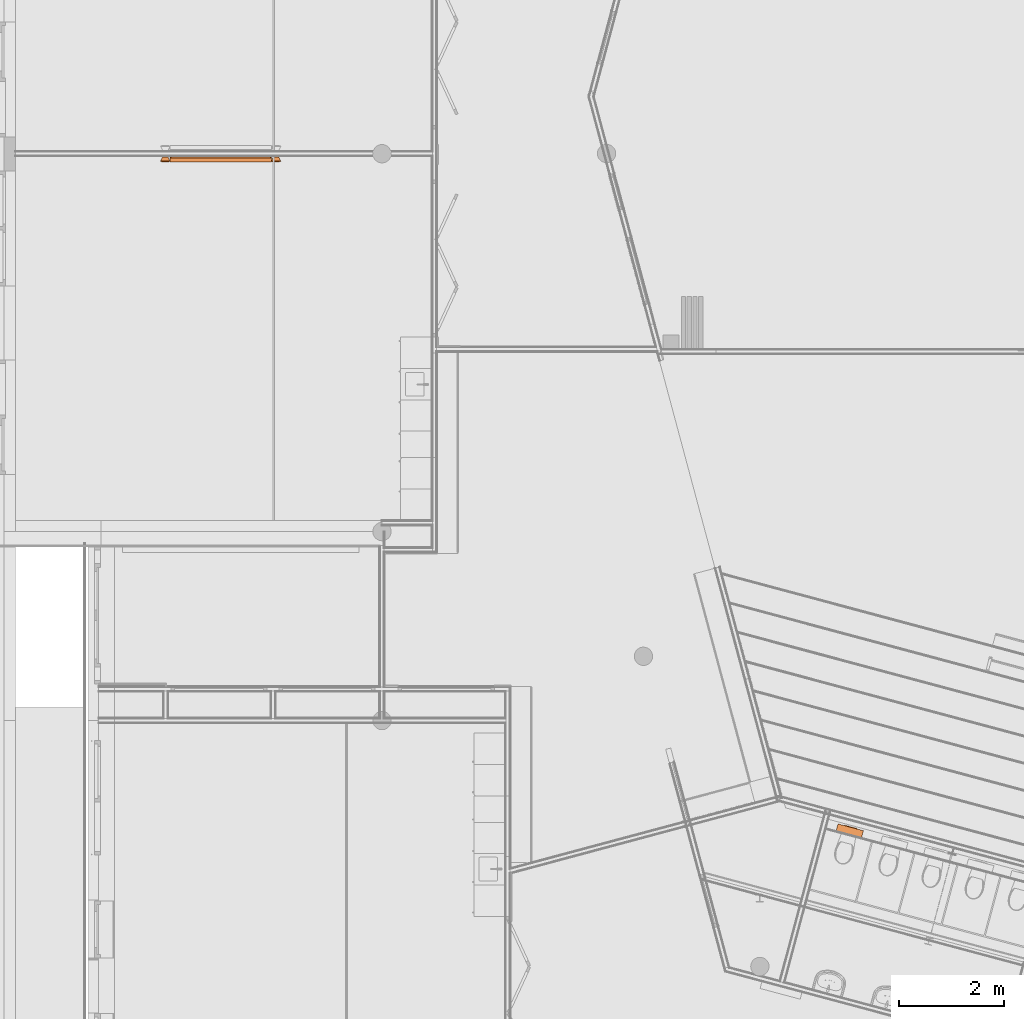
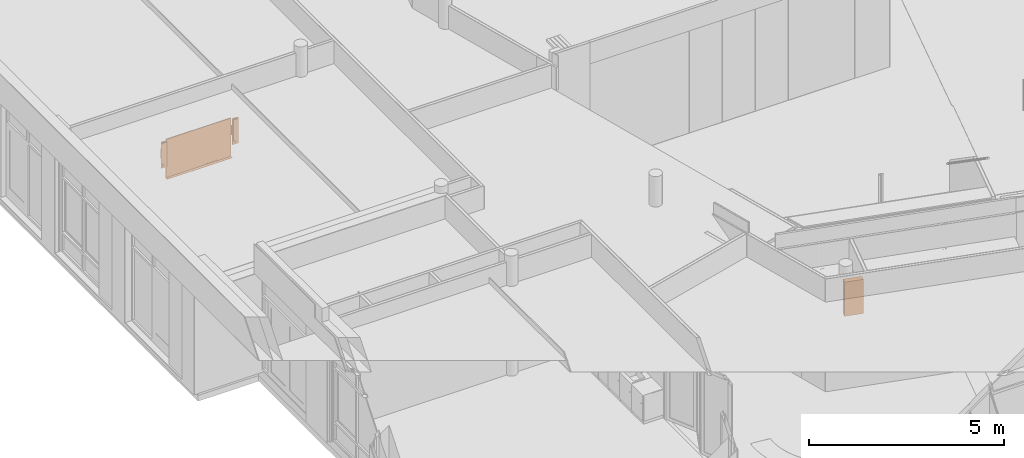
# One storey, part 94 of 167: 2 proxies.
"""IFC2X3 building model written with IfcOpenShell, lengths in millimetres."""

import ifcopenshell
import ifcopenshell.guid

model = None  # the IFC model being written
_history = None  # IfcOwnerHistory: only IFC2X3 demands one
_inside = {}  # id of a spatial element -> (the spatial element, [elements in it])
_under = {}  # id of a project, library or spatial element -> (it, [spatial elements below it])
_declared = {}  # id of a project -> (the project, [libraries it declares])
_typed = {}  # id of a type object -> (the type object, [elements of that type])
_made_of = {}  # id of a material, layer set ... -> (it, [elements and type objects made of it])


def new_model(schema):
    """Start an empty IFC model of exactly this schema.

    Asked for "IFC4X3", IfcOpenShell would pick the latest addendum, in which some entities
    have other attributes; the version numbers below select the first issue.
    IFC2X3 requires an IfcOwnerHistory on every rooted entity: one is made here for all.
    """
    global model, _history
    if schema == "IFC4X3":
        model = ifcopenshell.file(schema_version=(4, 3, 0, 0))
    else:
        model = ifcopenshell.file(schema=schema)
    _inside.clear()
    _under.clear()
    _declared.clear()
    _typed.clear()
    _made_of.clear()
    _history = None
    if model.schema == "IFC2X3":
        org = make("IfcOrganization", Name="unknown")
        user = make(
            "IfcPersonAndOrganization",
            ThePerson=make("IfcPerson", FamilyName="unknown"),
            TheOrganization=org,
        )
        app = make(
            "IfcApplication",
            ApplicationDeveloper=org,
            Version="unknown",
            ApplicationFullName="unknown",
            ApplicationIdentifier="unknown",
        )
        _history = make(
            "IfcOwnerHistory",
            OwningUser=user,
            OwningApplication=app,
            ChangeAction="ADDED",
            CreationDate=0,
        )
    return model


def make(cls, **values):
    """One entity of the class cls with the attributes given. An attribute that is None is left unset."""
    return model.create_entity(
        cls, **{name: value for name, value in values.items() if value is not None}
    )


def entity(cls, *values):
    """Any entity or typed value of the class cls, its attributes in the order of the schema. None: left unset."""
    e = model.create_entity(cls)
    for i, value in enumerate(values):
        if value is not None:
            e[i] = value
    return e


def rooted(cls, **values):
    """An entity with a GlobalId (a new one), such as an element, a storey or a relation."""
    return make(cls, GlobalId=ifcopenshell.guid.new(), OwnerHistory=_history, **values)


def si_unit(unit_type, name, prefix=None):
    """IfcSIUnit, for example si_unit("LENGTHUNIT", "METRE", prefix="MILLI")."""
    return make("IfcSIUnit", UnitType=unit_type, Prefix=prefix, Name=name)


def converted_unit(unit_type, name, factor, base, dimensions=None, offset=None):
    """IfcConversionBasedUnit, such as the inch: factor (a typed value) times the base unit."""
    return make(
        "IfcConversionBasedUnit"
        if offset is None
        else "IfcConversionBasedUnitWithOffset",
        ConversionOffset=offset,
        Dimensions=None
        if dimensions is None
        else entity("IfcDimensionalExponents", *dimensions),
        UnitType=unit_type,
        Name=name,
        ConversionFactor=make(
            "IfcMeasureWithUnit", ValueComponent=factor, UnitComponent=base
        ),
    )


def derived_unit(unit_type, elements):
    """IfcDerivedUnit: a product of units, each with its exponent."""
    return make(
        "IfcDerivedUnit",
        Elements=[
            make("IfcDerivedUnitElement", Unit=unit, Exponent=power)
            for unit, power in elements
        ],
        UnitType=unit_type,
    )


def money_unit(currency):
    """IfcMonetaryUnit."""
    return make("IfcMonetaryUnit", Currency=currency)


def assignment(units):
    """IfcUnitAssignment: the units of a project."""
    return None if units is None else make("IfcUnitAssignment", Units=units)


def point(xyz):
    """IfcCartesianPoint."""
    return None if xyz is None else make("IfcCartesianPoint", Coordinates=xyz)


def direction(xyz):
    """IfcDirection."""
    return None if xyz is None else make("IfcDirection", DirectionRatios=xyz)


def frame(location, z_axis=None, x_axis=None):
    """IfcAxis2Placement3D, a coordinate frame: its origin and axes. An axis left out is left unset."""
    return make(
        "IfcAxis2Placement3D",
        Location=point(location),
        Axis=direction(z_axis),
        RefDirection=direction(x_axis),
    )


def origin_with_axes():
    """The frame at (0, 0, 0) with the z axis (0, 0, 1) and the x axis (1, 0, 0) written out."""
    return frame((0.0, 0.0, 0.0), z_axis=(0.0, 0.0, 1.0), x_axis=(1.0, 0.0, 0.0))


def place(relative_to, where):
    """IfcLocalPlacement: puts the frame where relative to a parent placement (None: the world)."""
    return make(
        "IfcLocalPlacement", PlacementRelTo=relative_to, RelativePlacement=where
    )


def context(
    kind, dimensions, precision=None, world=None, true_north=None, identifier=None
):
    """IfcGeometricRepresentationContext, for example the 3D "Model" context."""
    return make(
        "IfcGeometricRepresentationContext",
        ContextIdentifier=identifier,
        ContextType=kind,
        CoordinateSpaceDimension=dimensions,
        Precision=precision,
        WorldCoordinateSystem=world,
        TrueNorth=true_north,
    )


def subcontext(parent, identifier, kind, view, scale=None):
    """IfcGeometricRepresentationSubContext, for example "Body" below "Model"."""
    return make(
        "IfcGeometricRepresentationSubContext",
        ContextIdentifier=identifier,
        ContextType=kind,
        ParentContext=parent,
        TargetScale=scale,
        TargetView=view,
    )


def project(units=None, contexts=None):
    """IfcProject with its units and contexts."""
    return rooted(
        "IfcProject",
        Name="project",
        RepresentationContexts=contexts,
        UnitsInContext=assignment(units),
    )


def spatial(cls, under=None, at=None, **own):
    """A site, building, storey or space (cls), placed at a placement, below another one or the project."""
    s = rooted(cls, ObjectPlacement=at, **own)
    if under is not None:
        _under.setdefault(under.id(), (under, []))[1].append(s)
    return s


def faces_of(points, faces, orient=None, outer=None):
    """IfcFace entities. A face is a list of loops; a loop is a list of indices into points, from 0.

    orient and outer hold one flag for each loop. By default every Orientation is true, the
    first loop of a face is its IfcFaceOuterBound and the others are IfcFaceBound.
    """
    made = []
    for i, loops in enumerate(faces):
        bounds = []
        for j, loop in enumerate(loops):
            is_outer = j == 0 if outer is None else outer[i][j]
            bounds.append(
                make(
                    "IfcFaceOuterBound" if is_outer else "IfcFaceBound",
                    Bound=make("IfcPolyLoop", Polygon=[points[k] for k in loop]),
                    Orientation=True if orient is None else orient[i][j],
                )
            )
        made.append(make("IfcFace", Bounds=bounds))
    return made


def open_shell(faces, orient=None, outer=None):
    """The faces of one IfcOpenShell. surface_model builds it on its shared points."""
    return ("IfcOpenShell", faces, orient, outer)


def faceted_brep(points, faces, orient=None, outer=None, voids=None):
    """IfcFacetedBrep: a solid bounded by flat faces; with voids (closed shells), ...WithVoids."""
    shared = [point(p) for p in points]
    hull = make("IfcClosedShell", CfsFaces=faces_of(shared, faces, orient, outer))
    if voids is None:
        return make("IfcFacetedBrep", Outer=hull)
    return make(
        "IfcFacetedBrepWithVoids",
        Outer=hull,
        Voids=[
            make(cls, CfsFaces=faces_of(shared, fs, o, b)) for cls, fs, o, b in voids
        ],
    )


def surface_model(cls, points, shells):
    """IfcFaceBasedSurfaceModel or IfcShellBasedSurfaceModel (cls): surfaces that need not close."""
    shared = [point(p) for p in points]
    made = [make(c, CfsFaces=faces_of(shared, fs, o, b)) for c, fs, o, b in shells]
    if cls == "IfcFaceBasedSurfaceModel":
        return make(cls, FbsmFaces=made)
    return make(cls, SbsmBoundary=made)


def shape(context_of_items, identifier, shape_type, items):
    """IfcShapeRepresentation: the items that make up one representation, for example the "Body"."""
    return make(
        "IfcShapeRepresentation",
        ContextOfItems=context_of_items,
        RepresentationIdentifier=identifier,
        RepresentationType=shape_type,
        Items=items,
    )


def source(mapping_origin, context_of_items, identifier, shape_type, items):
    """IfcRepresentationMap: a shape defined once, which mapped items show again and again."""
    return make(
        "IfcRepresentationMap",
        MappingOrigin=mapping_origin,
        MappedRepresentation=shape(context_of_items, identifier, shape_type, items),
    )


def transform(
    local_origin,
    x_axis=None,
    y_axis=None,
    z_axis=None,
    scale=None,
    scale2=None,
    scale3=None,
    uniform=True,
):
    """IfcCartesianTransformationOperator3D, or its non-uniform kind. x_axis, y_axis, z_axis: its Axis1, 2, 3."""
    if uniform:
        return make(
            "IfcCartesianTransformationOperator3D",
            Axis1=direction(x_axis),
            Axis2=direction(y_axis),
            LocalOrigin=point(local_origin),
            Scale=scale,
            Axis3=direction(z_axis),
        )
    return make(
        "IfcCartesianTransformationOperator3DnonUniform",
        Axis1=direction(x_axis),
        Axis2=direction(y_axis),
        LocalOrigin=point(local_origin),
        Scale=scale,
        Axis3=direction(z_axis),
        Scale2=scale2,
        Scale3=scale3,
    )


def mapped(mapping_source, mapping_target):
    """IfcMappedItem: shows the shape of a source again, moved by a transform."""
    return make(
        "IfcMappedItem", MappingSource=mapping_source, MappingTarget=mapping_target
    )


def made_of(thing, what):
    """Note that an element or type object is made of a material, layer set ...; save() writes the relation."""
    if what is not None:
        _made_of.setdefault(what.id(), (what, []))[1].append(thing)
    return thing


def type_object(cls, material=None, **own):
    """A type object (cls), such as IfcWallType, which elements share."""
    return made_of(rooted(cls, **own), material)


def type_shapes(of_type, sources):
    """Give a type object the sources (RepresentationMaps) that its elements show as mapped items."""
    of_type.RepresentationMaps = sources


def element(
    cls,
    number,
    at=None,
    inside=None,
    cuts=None,
    type_object=None,
    material=None,
    context=None,
    identifier="Body",
    shape_type=None,
    held_by="IfcProductDefinitionShape",
    body=None,
    shapes=None,
    **own,
):
    """One element of the class cls, such as IfcWall. Its Tag is "e" and its number.

    at: its placement. inside: the storey or other place that contains it. cuts: it is an
    opening in that element (IfcRelVoidsElement). A single representation is given by context,
    identifier, shape_type and body (its items); several are given by shapes. held_by: the class
    of the entity that holds the representations. save() writes the other relations.
    """
    e = rooted(cls, Tag="e%d" % number, ObjectPlacement=at, **own)
    if body is not None:
        shapes = [shape(context, identifier, shape_type, body)]
    if shapes is not None:
        e.Representation = make(held_by, Representations=shapes)
    if inside is not None:
        _inside.setdefault(inside.id(), (inside, []))[1].append(e)
    if cuts is not None:
        rooted(
            "IfcRelVoidsElement", RelatingBuildingElement=cuts, RelatedOpeningElement=e
        )
    if type_object is not None:
        _typed.setdefault(type_object.id(), (type_object, []))[1].append(e)
    return made_of(e, material)


def aggregate(whole, parts):
    """IfcRelAggregates: a whole, such as a stair, and the parts it consists of."""
    return rooted("IfcRelAggregates", RelatingObject=whole, RelatedObjects=parts)


def save(model, path):
    """Write the relations noted so far, then the file.

    IfcRelAggregates (storeys below a building ...), IfcRelContainedInSpatialStructure (elements
    in a storey), IfcRelDefinesByType, IfcRelAssociatesMaterial and IfcRelDeclares: one each for
    every whole, place, type object, material and project.
    """
    for whole, parts in _under.values():
        aggregate(whole, parts)
    for where, things in _inside.values():
        rooted(
            "IfcRelContainedInSpatialStructure",
            RelatedElements=things,
            RelatingStructure=where,
        )
    for kind, things in _typed.values():
        rooted("IfcRelDefinesByType", RelatedObjects=things, RelatingType=kind)
    for what, things in _made_of.values():
        rooted("IfcRelAssociatesMaterial", RelatedObjects=things, RelatingMaterial=what)
    for by, libraries in _declared.values():
        rooted("IfcRelDeclares", RelatingContext=by, RelatedDefinitions=libraries)
    model.write(path)


model = new_model("IFC2X3")

# Units and contexts
model_context = context("Model", 3, precision=0.01, world=origin_with_axes(), true_north=direction((0.0, 1.0)))
plan_context = context("Plan", 3, precision=0.01, world=origin_with_axes(), true_north=direction((0.0, 1.0)))
body_context = subcontext(model_context, "Body", "Model", "MODEL_VIEW")
ifc_project = project(units=[si_unit("LENGTHUNIT", "METRE", prefix="MILLI"), si_unit("AREAUNIT", "SQUARE_METRE"), si_unit("VOLUMEUNIT", "CUBIC_METRE"), converted_unit("PLANEANGLEUNIT", "DEGREE", entity("IfcPlaneAngleMeasure", 0.0174532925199), si_unit("PLANEANGLEUNIT", "RADIAN"), dimensions=[0, 0, 0, 0, 0, 0, 0]), si_unit("SOLIDANGLEUNIT", "STERADIAN"), money_unit("EUR"), converted_unit("TIMEUNIT", "Year", entity("IfcTimeMeasure", 31556926.0), si_unit("TIMEUNIT", "SECOND"), dimensions=[0, 0, 1, 0, 0, 0, 0]), si_unit("MASSUNIT", "GRAM", prefix="KILO"), si_unit("THERMODYNAMICTEMPERATUREUNIT", "DEGREE_CELSIUS"), si_unit("LUMINOUSINTENSITYUNIT", "LUMEN"), si_unit("ENERGYUNIT", "JOULE", prefix="MEGA"), derived_unit("THERMALCONDUCTANCEUNIT", [(si_unit("POWERUNIT", "WATT"), 1), (si_unit("LENGTHUNIT", "METRE"), -1), (si_unit("THERMODYNAMICTEMPERATUREUNIT", "KELVIN"), -1)]), derived_unit("SPECIFICHEATCAPACITYUNIT", [(si_unit("ENERGYUNIT", "JOULE"), 1), (si_unit("MASSUNIT", "GRAM", prefix="KILO"), -1), (si_unit("THERMODYNAMICTEMPERATUREUNIT", "KELVIN"), -1)]), derived_unit("MASSDENSITYUNIT", [(si_unit("MASSUNIT", "GRAM", prefix="KILO"), 1), (si_unit("VOLUMEUNIT", "CUBIC_METRE"), -1)])], contexts=[model_context, plan_context])

# Site, building, storey
site_placement = place(None, origin_with_axes())
site = spatial("IfcSite", under=ifc_project, at=site_placement, Name="Site", CompositionType="ELEMENT")
building_placement = place(site_placement, origin_with_axes())
building = spatial("IfcBuilding", under=site, at=building_placement, Name="Naam gebouw", CompositionType="ELEMENT")
storey_placement = place(building_placement, origin_with_axes())
storey = spatial("IfcBuildingStorey", under=building, at=storey_placement, Name="Begane grond", CompositionType="ELEMENT", Elevation=0.0)

# Proxies
building_element_proxy_type_1 = type_object("IfcBuildingElementProxyType", Name="Inbouwreservoir 24 KM", PredefinedType="NOTDEFINED")
shared_shape_1 = source(origin_with_axes(), body_context, "Body", "SurfaceModel", [
    faceted_brep([(0.0, 0.0, 0.0), (0.0, 0.0, 1070.0), (-501.499856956, 0.0, 1070.0), (-501.499856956, 0.0, 0.0), (0.0, 145.000476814, 0.0), (0.0, 145.000476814, 1070.0), (-501.499856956, 145.000476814, 1070.0), (-501.499856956, 145.000476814, 0.0)], [[[0, 1, 2, 3]], [[4, 5, 1, 0]], [[1, 5, 6, 2]], [[3, 2, 6, 7]], [[0, 3, 7, 4]], [[7, 6, 5, 4]]]),
    surface_model("IfcShellBasedSurfaceModel", [(-1.0, 0.0, 0.0), (-1.0, 145.000476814, 1070.0), (-500.499856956, 145.000476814, 1070.0), (-500.499856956, 0.0, 0.0)], [open_shell([[[0, 1, 2, 3]]])]),
    surface_model("IfcShellBasedSurfaceModel", [(-1.0, 0.0, 1070.0), (-1.0, 145.000476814, 0.0), (-500.499856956, 145.000476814, 0.0), (-500.499856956, 0.0, 1070.0)], [open_shell([[[0, 1, 2, 3]]])]),
    faceted_brep([(-375.749928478, -10.0, 820.0), (-375.749928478, 0.0, 820.0), (-125.749928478, 0.0, 820.0), (-125.749928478, -10.0, 820.0), (-375.749928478, -10.0, 980.0), (-375.749928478, 0.0, 980.0), (-125.749928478, 0.0, 980.0), (-125.749928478, -10.0, 980.0)], [[[0, 1, 2, 3]], [[0, 4, 5, 1]], [[1, 5, 6, 2]], [[2, 6, 7, 3]], [[3, 7, 4, 0]], [[7, 6, 5, 4]]]),
    surface_model("IfcShellBasedSurfaceModel", [(-325.749928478, 0.0, 850.0), (-325.749928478, 0.0, 950.0), (-175.749928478, 0.0, 950.0), (-175.749928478, 0.0, 850.0)], [open_shell([[[0, 1, 2, 3]]])]),
    surface_model("IfcShellBasedSurfaceModel", [(-175.749928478, -10.0, 820.0), (-175.749928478, -10.0, 855.0), (-325.749928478, -10.0, 855.0), (-325.749928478, -10.0, 820.0)], [open_shell([[[0, 1, 2, 3]]])]),
    surface_model("IfcShellBasedSurfaceModel", [(-175.749928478, -10.0, 855.0), (-175.749928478, -10.0, 945.0), (-265.749928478, -10.0, 945.0), (-265.749928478, -10.0, 855.0)], [open_shell([[[0, 1, 2, 3]]])]),
    surface_model("IfcShellBasedSurfaceModel", [(-265.749928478, -10.0, 855.0), (-265.749928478, -10.0, 945.0), (-325.749928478, -10.0, 945.0), (-325.749928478, -10.0, 855.0)], [open_shell([[[0, 1, 2, 3]]])]),
])
type_shapes(building_element_proxy_type_1, [shared_shape_1])
proxy_1_placement = place(storey_placement, frame((15888.4563899, 16030.7101683, 0.0), z_axis=(0.0, 0.0, 1.0), x_axis=(-0.966006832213, 0.258516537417, 0.0)))
element("IfcBuildingElementProxy", 1, at=proxy_1_placement, inside=storey, type_object=building_element_proxy_type_1, Name="__Object-x", context=body_context, shape_type="MappedRepresentation", body=[
    mapped(shared_shape_1, transform((0.0, 0.0, 0.0))),
])
building_element_proxy_type_2 = type_object("IfcBuildingElementProxyType", Name="Digitaal bord 24", PredefinedType="NOTDEFINED")
shared_shape_2 = source(origin_with_axes(), body_context, "Body", "Brep", [
    faceted_brep([(0.0, 0.0, 1000.0), (1930.0, 0.0, 1000.0), (1930.0, -30.0, 1000.0), (0.0, -30.0, 1000.0), (0.0, 0.0, 2185.0), (4.3933982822, 0.0, 2195.60660172), (15.0, 0.0, 2200.0), (1915.0, 0.0, 2200.0), (1925.60660172, 0.0, 2195.60660172), (1930.0, 0.0, 2185.0), (20.0, 0.0, 1025.0), (1910.0, 0.0, 1025.0), (1910.0, 0.0, 2180.0), (20.0, 0.0, 2180.0), (1930.0, -30.0, 2185.0), (1925.60660172, -30.0, 2195.60660172), (1915.0, -30.0, 2200.0), (15.0, -30.0, 2200.0), (4.3933982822, -30.0, 2195.60660172), (0.0, -30.0, 2185.0), (20.0, -30.0, 1025.0), (20.0, -30.0, 2180.0), (1910.0, -30.0, 2180.0), (1910.0, -30.0, 1025.0)], [[[0, 1, 2, 3]], [[0, 4, 5, 6, 7, 8, 9, 1], [10, 11, 12, 13]], [[1, 9, 14, 2]], [[3, 2, 14, 15, 16, 17, 18, 19], [20, 21, 22, 23]], [[4, 0, 3, 19]], [[5, 4, 19, 18]], [[6, 5, 18, 17]], [[7, 6, 17, 16]], [[8, 7, 16, 15]], [[9, 8, 15, 14]], [[11, 10, 20, 23]], [[12, 11, 23, 22]], [[13, 12, 22, 21]], [[10, 13, 21, 20]]]),
    faceted_brep([(20.0, 0.0, 1025.0), (1910.0, 0.0, 1025.0), (1910.0, -29.0, 1025.0), (20.0, -29.0, 1025.0), (20.0, 0.0, 2180.0), (1910.0, 0.0, 2180.0), (1910.0, -29.0, 2180.0), (20.0, -29.0, 2180.0)], [[[0, 1, 2, 3]], [[0, 4, 5, 1]], [[1, 5, 6, 2]], [[3, 2, 6, 7]], [[4, 0, 3, 7]], [[5, 4, 7, 6]]]),
    faceted_brep([(1930.0, -110.0, 1000.0), (0.0, -110.0, 1000.0), (0.0, -30.0, 1000.0), (1930.0, -30.0, 1000.0), (1930.0, -110.0, 1005.0), (0.0, -110.0, 1005.0), (0.0, -30.0, 1005.0), (1930.0, -30.0, 1005.0)], [[[0, 1, 2, 3]], [[1, 0, 4, 5]], [[2, 1, 5, 6]], [[3, 2, 6, 7]], [[0, 3, 7, 4]], [[5, 4, 7, 6]]]),
    faceted_brep([(0.0, -10.0, 1650.0), (-140.0, -10.0, 1650.0), (-140.0, 0.0, 1650.0), (0.0, 0.0, 1650.0), (0.0, -10.0, 1950.0), (-140.0, -10.0, 1950.0), (-140.0, 0.0, 1950.0), (0.0, 0.0, 1950.0)], [[[0, 1, 2, 3]], [[1, 0, 4, 5]], [[2, 1, 5, 6]], [[3, 2, 6, 7]], [[0, 3, 7, 4]], [[5, 4, 7, 6]]]),
    faceted_brep([(0.0, -100.0, 2200.0), (-180.0, -100.0, 2200.0), (-180.0, -100.0, 1400.0), (0.0, -100.0, 1400.0), (2.43782993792e-07, -90.0, 2200.00000039), (-180.00000039, -90.0, 2200.00000039), (-180.00000039, -90.0, 1399.99999964), (2.43782993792e-07, -90.0, 1399.99999964), (-39.9999997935, -9.99999992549, 2160.00000035), (-140.000000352, -9.99999992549, 2160.00000035), (-140.000000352, -9.99999992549, 1439.99999968), (-39.9999997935, -9.99999992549, 1439.99999968)], [[[0, 1, 2, 3]], [[1, 0, 4, 5]], [[2, 1, 5, 6]], [[3, 2, 6, 7]], [[0, 3, 7, 4]], [[5, 4, 8, 9]], [[6, 5, 9, 10]], [[7, 6, 10, 11]], [[4, 7, 11, 8]], [[10, 9, 8, 11]]]),
    faceted_brep([(-157.071067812, -100.0, 1522.92893219), (-160.0, -100.0, 1530.0), (-160.0, -100.0, 2170.0), (-157.071067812, -100.0, 2177.07106781), (-150.0, -100.0, 2180.0), (-30.0, -100.0, 2180.0), (-22.9289321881, -100.0, 2177.07106781), (-20.0, -100.0, 2170.0), (-20.0, -100.0, 1530.0), (-22.9289321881, -100.0, 1522.92893219), (-30.0, -100.0, 1520.0), (-150.0, -100.0, 1520.0), (-156.488467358, -103.826834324, 1523.51153264), (-159.238795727, -103.826834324, 1530.15141333), (-159.238795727, -103.826834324, 2169.84858696), (-156.488467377, -103.826834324, 2176.48846672), (-149.848586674, -103.826834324, 2179.2387951), (-30.1514125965, -103.826834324, 2179.2387951), (-23.5115328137, -103.826834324, 2176.48846674), (-20.761204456, -103.826834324, 2169.84858696), (-20.761204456, -103.826834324, 1530.15141333), (-23.5115328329, -103.826834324, 1523.51153262), (-30.1514125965, -103.826834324, 1520.76120427), (-149.848586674, -103.826834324, 1520.76120427), (-152.346331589, -109.238795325, 1527.65366841), (-153.826834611, -109.238795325, 1531.22791923), (-153.826834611, -109.238795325, 2168.77208092), (-152.346331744, -109.238795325, 2172.34633089), (-148.772080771, -109.238795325, 2173.82683398), (-31.2279186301, -109.238795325, 2173.82683398), (-27.6536685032, -109.238795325, 2172.34633105), (-26.1731655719, -109.238795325, 2168.77208092), (-26.1731655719, -109.238795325, 1531.22791923), (-27.6536686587, -109.238795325, 1527.65366826), (-31.2279186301, -109.238795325, 1526.17316539), (-148.772080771, -109.238795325, 1526.17316539), (-149.41740042, -109.999999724, 1530.58259958), (-150.000001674, -109.999999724, 1531.98912356), (-150.000001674, -109.999999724, 2168.0108765), (-149.417400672, -109.999999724, 2169.41739969), (-148.010876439, -109.999999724, 2170.00000104), (-31.9891230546, -109.999999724, 2170.00000104), (-30.5825996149, -109.999999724, 2169.41739994), (-29.9999985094, -109.999999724, 2168.0108765), (-29.9999985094, -109.999999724, 1531.98912356), (-30.5825998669, -109.999999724, 1530.58259933), (-31.9891230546, -109.999999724, 1529.99999833), (-148.010876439, -109.999999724, 1529.99999833)], [[[0, 1, 2, 3, 4, 5, 6, 7, 8, 9, 10, 11]], [[1, 0, 12, 13]], [[2, 1, 13, 14]], [[3, 2, 14, 15]], [[4, 3, 15, 16]], [[5, 4, 16, 17]], [[6, 5, 17, 18]], [[7, 6, 18, 19]], [[8, 7, 19, 20]], [[9, 8, 20, 21]], [[10, 9, 21, 22]], [[11, 10, 22, 23]], [[0, 11, 23, 12]], [[13, 12, 24, 25]], [[14, 13, 25, 26]], [[15, 14, 26, 27]], [[16, 15, 27, 28]], [[17, 16, 28, 29]], [[18, 17, 29, 30]], [[19, 18, 30, 31]], [[20, 19, 31, 32]], [[21, 20, 32, 33]], [[22, 21, 33, 34]], [[23, 22, 34, 35]], [[12, 23, 35, 24]], [[25, 24, 36, 37]], [[26, 25, 37, 38]], [[27, 26, 38, 39]], [[28, 27, 39, 40]], [[29, 28, 40, 41]], [[30, 29, 41, 42]], [[31, 30, 42, 43]], [[32, 31, 43, 44]], [[33, 32, 44, 45]], [[34, 33, 45, 46]], [[35, 34, 46, 47]], [[24, 35, 47, 36]], [[39, 38, 37, 36, 47, 46, 45, 44, 43, 42, 41, 40]]]),
    faceted_brep([(-40.0, -100.0, 1400.0), (-140.0, -100.0, 1400.0), (-140.0, -100.0, 1450.0), (-125.355339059, -100.0, 1485.35533906), (-90.0, -100.0, 1500.0), (-54.6446609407, -100.0, 1485.35533906), (-40.0, -100.0, 1450.0), (-40.380602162, -101.913417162, 1400.38060194), (-139.619398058, -101.913417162, 1400.38060194), (-139.619398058, -101.913417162, 1449.92429384), (-125.064038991, -101.913417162, 1485.06403877), (-89.9999996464, -101.913417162, 1499.58803917), (-54.9359612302, -101.913417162, 1485.06403877), (-40.380602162, -101.913417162, 1449.92429384), (-43.0865822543, -104.619397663, 1403.08658203), (-136.913417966, -104.619397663, 1403.08658203), (-136.913417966, -104.619397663, 1449.38604093), (-122.9929715, -104.619397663, 1482.99297126), (-89.99999966, -104.619397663, 1496.65910743), (-57.0070287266, -104.619397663, 1482.99297127), (-43.0865822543, -104.619397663, 1449.38604093), (-45.0000010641, -105.000000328, 1405.00000084), (-134.999999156, -105.000000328, 1405.00000084), (-134.999999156, -105.000000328, 1449.00543826), (-121.528504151, -105.000000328, 1481.52850389), (-89.9999996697, -105.000000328, 1494.58803784), (-58.4714960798, -105.000000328, 1481.52850392), (-45.0000010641, -105.000000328, 1449.00543826)], [[[0, 1, 2, 3, 4, 5, 6]], [[1, 0, 7, 8]], [[2, 1, 8, 9]], [[3, 2, 9, 10]], [[4, 3, 10, 11]], [[5, 4, 11, 12]], [[6, 5, 12, 13]], [[0, 6, 13, 7]], [[8, 7, 14, 15]], [[9, 8, 15, 16]], [[10, 9, 16, 17]], [[11, 10, 17, 18]], [[12, 11, 18, 19]], [[13, 12, 19, 20]], [[7, 13, 20, 14]], [[15, 14, 21, 22]], [[16, 15, 22, 23]], [[17, 16, 23, 24]], [[18, 17, 24, 25]], [[19, 18, 25, 26]], [[20, 19, 26, 27]], [[14, 20, 27, 21]], [[24, 23, 22, 21, 27, 26, 25]]]),
    faceted_brep([(1930.0, -10.0, 1650.0), (1930.0, 0.0, 1650.0), (2070.0, 0.0, 1650.0), (2070.0, -10.0, 1650.0), (1930.0, -10.0, 1950.0), (1930.0, 0.0, 1950.0), (2070.0, 0.0, 1950.0), (2070.0, -10.0, 1950.0)], [[[0, 1, 2, 3]], [[0, 4, 5, 1]], [[1, 5, 6, 2]], [[2, 6, 7, 3]], [[3, 7, 4, 0]], [[7, 6, 5, 4]]]),
    faceted_brep([(1930.0, -100.0, 2200.0), (1930.0, -100.0, 1400.0), (2110.0, -100.0, 1400.0), (2110.0, -100.0, 2200.0), (1929.99999976, -90.0, 2200.00000039), (1929.99999976, -90.0, 1399.99999964), (2110.00000039, -90.0, 1399.99999964), (2110.00000039, -90.0, 2200.00000039), (1969.99999979, -9.99999992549, 2160.00000035), (1969.99999979, -9.99999992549, 1439.99999968), (2070.00000035, -9.99999992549, 1439.99999968), (2070.00000035, -9.99999992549, 2160.00000035)], [[[0, 1, 2, 3]], [[0, 4, 5, 1]], [[1, 5, 6, 2]], [[2, 6, 7, 3]], [[3, 7, 4, 0]], [[4, 8, 9, 5]], [[5, 9, 10, 6]], [[6, 10, 11, 7]], [[7, 11, 8, 4]], [[10, 9, 8, 11]]]),
    faceted_brep([(2087.07106781, -100.0, 1522.92893219), (2080.0, -100.0, 1520.0), (1960.0, -100.0, 1520.0), (1952.92893219, -100.0, 1522.92893219), (1950.0, -100.0, 1530.0), (1950.0, -100.0, 2170.0), (1952.92893219, -100.0, 2177.07106781), (1960.0, -100.0, 2180.0), (2080.0, -100.0, 2180.0), (2087.07106781, -100.0, 2177.07106781), (2090.0, -100.0, 2170.0), (2090.0, -100.0, 1530.0), (2086.48846736, -103.826834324, 1523.51153264), (2079.84858667, -103.826834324, 1520.76120427), (1960.1514126, -103.826834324, 1520.76120427), (1953.51153283, -103.826834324, 1523.51153262), (1950.76120446, -103.826834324, 1530.15141333), (1950.76120446, -103.826834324, 2169.84858696), (1953.51153281, -103.826834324, 2176.48846674), (1960.1514126, -103.826834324, 2179.2387951), (2079.84858667, -103.826834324, 2179.2387951), (2086.48846738, -103.826834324, 2176.48846672), (2089.23879573, -103.826834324, 2169.84858696), (2089.23879573, -103.826834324, 1530.15141333), (2082.34633159, -109.238795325, 1527.65366841), (2078.77208077, -109.238795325, 1526.17316539), (1961.22791863, -109.238795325, 1526.17316539), (1957.65366866, -109.238795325, 1527.65366826), (1956.17316557, -109.238795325, 1531.22791923), (1956.17316557, -109.238795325, 2168.77208092), (1957.6536685, -109.238795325, 2172.34633105), (1961.22791863, -109.238795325, 2173.82683398), (2078.77208077, -109.238795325, 2173.82683398), (2082.34633174, -109.238795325, 2172.34633089), (2083.82683461, -109.238795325, 2168.77208092), (2083.82683461, -109.238795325, 1531.22791923), (2079.41740042, -109.999999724, 1530.58259958), (2078.01087644, -109.999999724, 1529.99999833), (1961.98912305, -109.999999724, 1529.99999833), (1960.58259987, -109.999999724, 1530.58259933), (1959.99999851, -109.999999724, 1531.98912356), (1959.99999851, -109.999999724, 2168.0108765), (1960.58259961, -109.999999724, 2169.41739994), (1961.98912305, -109.999999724, 2170.00000104), (2078.01087644, -109.999999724, 2170.00000104), (2079.41740067, -109.999999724, 2169.41739969), (2080.00000167, -109.999999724, 2168.0108765), (2080.00000167, -109.999999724, 1531.98912356)], [[[0, 1, 2, 3, 4, 5, 6, 7, 8, 9, 10, 11]], [[0, 12, 13, 1]], [[1, 13, 14, 2]], [[2, 14, 15, 3]], [[3, 15, 16, 4]], [[4, 16, 17, 5]], [[5, 17, 18, 6]], [[6, 18, 19, 7]], [[7, 19, 20, 8]], [[8, 20, 21, 9]], [[9, 21, 22, 10]], [[10, 22, 23, 11]], [[11, 23, 12, 0]], [[12, 24, 25, 13]], [[13, 25, 26, 14]], [[14, 26, 27, 15]], [[15, 27, 28, 16]], [[16, 28, 29, 17]], [[17, 29, 30, 18]], [[18, 30, 31, 19]], [[19, 31, 32, 20]], [[20, 32, 33, 21]], [[21, 33, 34, 22]], [[22, 34, 35, 23]], [[23, 35, 24, 12]], [[24, 36, 37, 25]], [[25, 37, 38, 26]], [[26, 38, 39, 27]], [[27, 39, 40, 28]], [[28, 40, 41, 29]], [[29, 41, 42, 30]], [[30, 42, 43, 31]], [[31, 43, 44, 32]], [[32, 44, 45, 33]], [[33, 45, 46, 34]], [[34, 46, 47, 35]], [[35, 47, 36, 24]], [[45, 44, 43, 42, 41, 40, 39, 38, 37, 36, 47, 46]]]),
    faceted_brep([(1970.0, -100.0, 1400.0), (1970.0, -100.0, 1450.0), (1984.64466094, -100.0, 1485.35533906), (2020.0, -100.0, 1500.0), (2055.35533906, -100.0, 1485.35533906), (2070.0, -100.0, 1450.0), (2070.0, -100.0, 1400.0), (1970.38060216, -101.913417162, 1400.38060194), (1970.38060216, -101.913417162, 1449.92429384), (1984.93596123, -101.913417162, 1485.06403877), (2019.99999965, -101.913417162, 1499.58803917), (2055.06403899, -101.913417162, 1485.06403877), (2069.61939806, -101.913417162, 1449.92429384), (2069.61939806, -101.913417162, 1400.38060194), (1973.08658225, -104.619397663, 1403.08658203), (1973.08658225, -104.619397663, 1449.38604093), (1987.00702873, -104.619397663, 1482.99297127), (2019.99999966, -104.619397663, 1496.65910743), (2052.9929715, -104.619397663, 1482.99297126), (2066.91341797, -104.619397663, 1449.38604093), (2066.91341797, -104.619397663, 1403.08658203), (1975.00000106, -105.000000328, 1405.00000084), (1975.00000106, -105.000000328, 1449.00543826), (1988.47149608, -105.000000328, 1481.52850392), (2019.99999967, -105.000000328, 1494.58803784), (2051.52850415, -105.000000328, 1481.52850389), (2064.99999916, -105.000000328, 1449.00543826), (2064.99999916, -105.000000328, 1405.00000084)], [[[0, 1, 2, 3, 4, 5, 6]], [[0, 7, 8, 1]], [[1, 8, 9, 2]], [[2, 9, 10, 3]], [[3, 10, 11, 4]], [[4, 11, 12, 5]], [[5, 12, 13, 6]], [[6, 13, 7, 0]], [[7, 14, 15, 8]], [[8, 15, 16, 9]], [[9, 16, 17, 10]], [[10, 17, 18, 11]], [[11, 18, 19, 12]], [[12, 19, 20, 13]], [[13, 20, 14, 7]], [[14, 21, 22, 15]], [[15, 22, 23, 16]], [[16, 23, 24, 17]], [[17, 24, 25, 18]], [[18, 25, 26, 19]], [[19, 26, 27, 20]], [[20, 27, 21, 14]], [[25, 24, 23, 22, 21, 27, 26]]]),
])
type_shapes(building_element_proxy_type_2, [shared_shape_2])
proxy_2_placement = place(storey_placement, frame((3161.06782013, 28750.0, 0.0), z_axis=(0.0, 0.0, 1.0), x_axis=(1.0, 0.0, 0.0)))
element("IfcBuildingElementProxy", 2, at=proxy_2_placement, inside=storey, type_object=building_element_proxy_type_2, Name="__object-x", context=body_context, shape_type="MappedRepresentation", body=[
    mapped(shared_shape_2, transform((0.0, 0.0, 0.0))),
])

save(model, "model.ifc")
